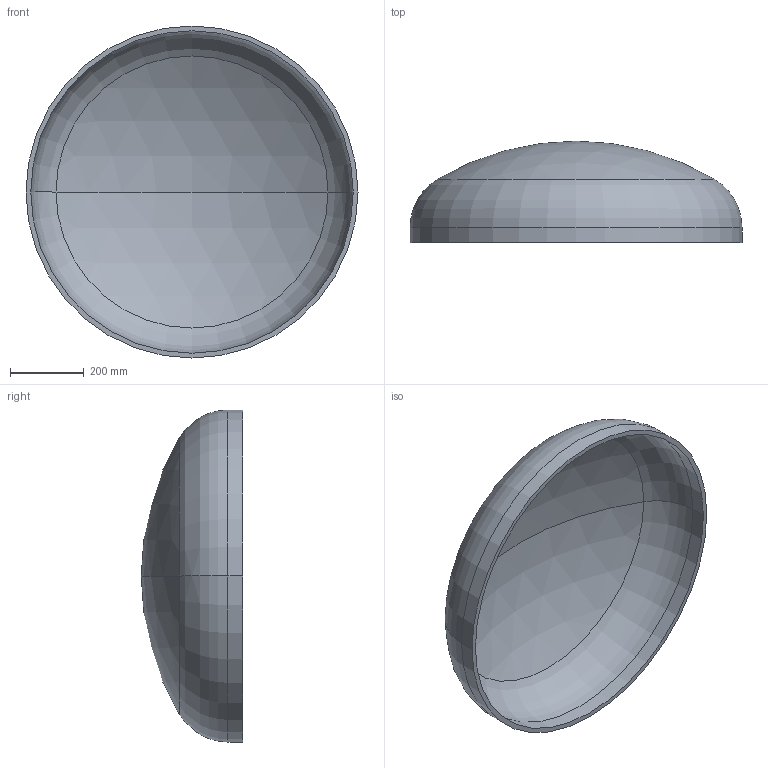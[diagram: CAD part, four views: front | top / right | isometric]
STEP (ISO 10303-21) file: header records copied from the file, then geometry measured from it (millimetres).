
FILE_DESCRIPTION (( 'STEP AP203' ), '1' );
FILE_NAME ('DIN 28013 Korbbogenform_-_Boden DIN 28013 - 900 x 40 - I - s=13.step', '2016-07-01T08:26:17', ( '' ), ( '' ), 'SwSTEP 2.0', 'SolidWorks 2013', '' );
FILE_SCHEMA (( 'CONFIG_CONTROL_DESIGN' ));
Length unit declared in the file: millimetre
Products named in the file (1): DIN 28013 Korbbogenform_-_Boden DIN 28013 - 900 x 40 - I - s=13
Bounding box: 900 x 274.81 x 900 mm (x, y, z)
Volume: 12709107.3 mm3; surface area: 1991826.3 mm2
Topology: 1 solids, 1 shells, 13 faces, 24 edges, 14 vertices
Faces by surface type: torus 4, cylinder 4, sphere 4, plane 1
Entity records: 407 total; most frequent: DIRECTION 72, CARTESIAN_POINT 52, ORIENTED_EDGE 48, AXIS2_PLACEMENT_3D 34, EDGE_CURVE 24, CIRCLE 20, VERTEX_POINT 14, EDGE_LOOP 14
